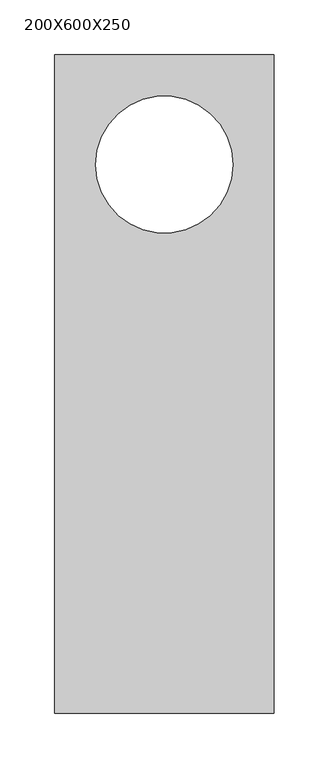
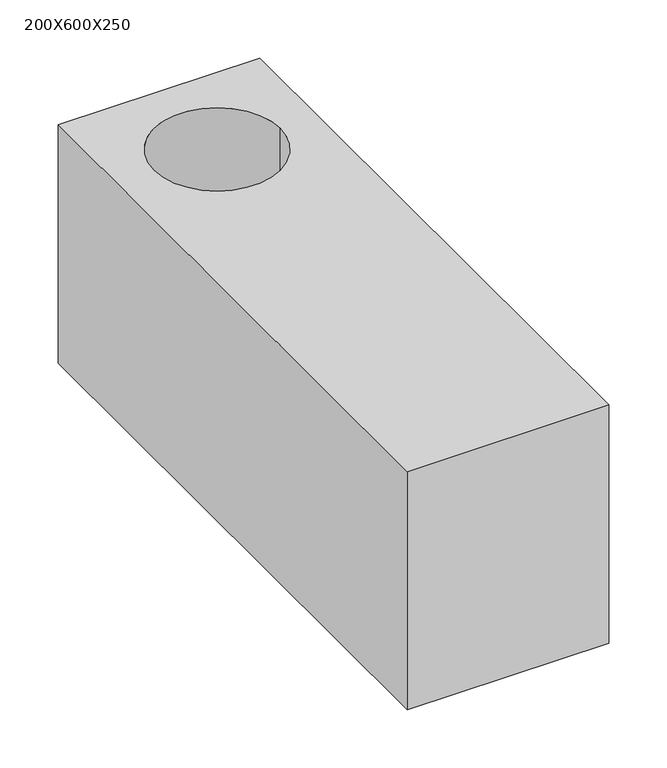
"""IFC4 building model written with IfcOpenShell, lengths in millimetres: plate geometry, GASBETON Evolution Forati : 200X600X250."""

from ifc_helpers import new_model, si_unit, point, frame_2d, origin, origin_with_axes, place, context, project, spatial, polyline, circle_curve, trimmed, segment, composite_curve, outline, extrude, source, transform, mapped, element, save


def plate_200x600x250_e10a8f94(model_context):
    return source(origin(), model_context, "Body", "SweptSolid", [
        extrude(outline(polyline([(100.0, 300.0), (100.0, -300.0), (-100.0, -300.0), (-100.0, 300.0), (100.0, 300.0)]), holes=[composite_curve([segment(trimmed(circle_curve(frame_2d((0.0, 200.0)), 62.5), [point((-62.5, 200.0))], [point((62.5, 200.0))], True, "CARTESIAN"), True, "CONTINUOUS"), segment(trimmed(circle_curve(frame_2d((0.0, 200.0)), 62.5), [point((62.5, 200.0))], [point((-62.5, 200.0))], True, "CARTESIAN"), True, "CONTINUOUS")], self_intersect=False)]), origin_with_axes(), (0.0, 0.0, 1.0), 250.0),
    ])


if __name__ == "__main__":
    model = new_model("IFC4")
    model_context = context("Model", 3, world=origin())
    ifc_project = project(units=[si_unit("LENGTHUNIT", "METRE", prefix="MILLI")], contexts=[model_context])
    site = spatial("IfcSite", under=ifc_project)
    building = spatial("IfcBuilding", under=site)
    placement = place(None, origin())
    plate_200x600x250_shape = plate_200x600x250_e10a8f94(model_context)
    element("IfcPlate", 1, ObjectType="GASBETON Evolution Forati : 200X600X250", at=placement, inside=building, context=model_context, shape_type="MappedRepresentation", body=[
        mapped(plate_200x600x250_shape, transform((0.0, 0.0, 0.0), x_axis=(1.0, 0.0, 0.0), y_axis=(0.0, 1.0, 0.0), z_axis=(0.0, 0.0, 1.0))),
    ])
    save(model, "model.ifc")
